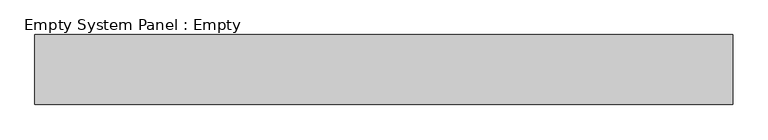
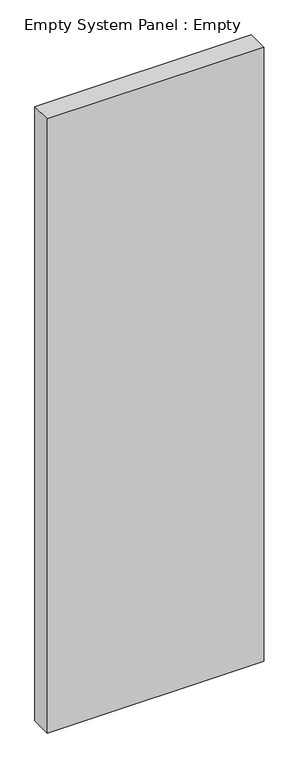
"""IFC4 building model written with IfcOpenShell, lengths in millimetres: plate geometry, Empty System Panel : Empty."""

from ifc_helpers import new_model, si_unit, origin, origin_with_axes, place, context, project, spatial, polyline, outline, extrude, source, transform, mapped, element, save


def empty_system_panel_empty_e246a7f8(model_context):
    return source(origin(), model_context, "Body", "SweptSolid", [
        extrude(outline(polyline([(500.0, -50.0), (-500.0, -50.0), (-500.0, 50.0), (500.0, 50.0), (500.0, -50.0)])), origin_with_axes(), (0.0, 0.0, 1.0), 3000.0),
    ])


if __name__ == "__main__":
    model = new_model("IFC4")
    model_context = context("Model", 3, world=origin())
    ifc_project = project(units=[si_unit("LENGTHUNIT", "METRE", prefix="MILLI")], contexts=[model_context])
    site = spatial("IfcSite", under=ifc_project)
    building = spatial("IfcBuilding", under=site)
    placement = place(None, origin())
    empty_system_panel_empty_shape = empty_system_panel_empty_e246a7f8(model_context)
    element("IfcPlate", 1, ObjectType="Empty System Panel : Empty", at=placement, inside=building, context=model_context, shape_type="MappedRepresentation", body=[
        mapped(empty_system_panel_empty_shape, transform((0.0, 0.0, 0.0), x_axis=(1.0, 0.0, 0.0), y_axis=(0.0, 1.0, 0.0), z_axis=(0.0, 0.0, 1.0))),
    ])
    save(model, "model.ifc")
